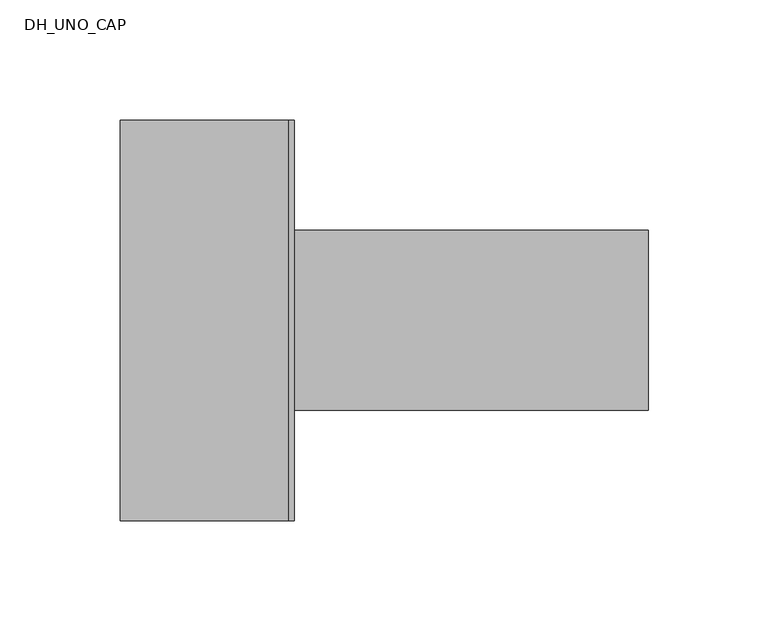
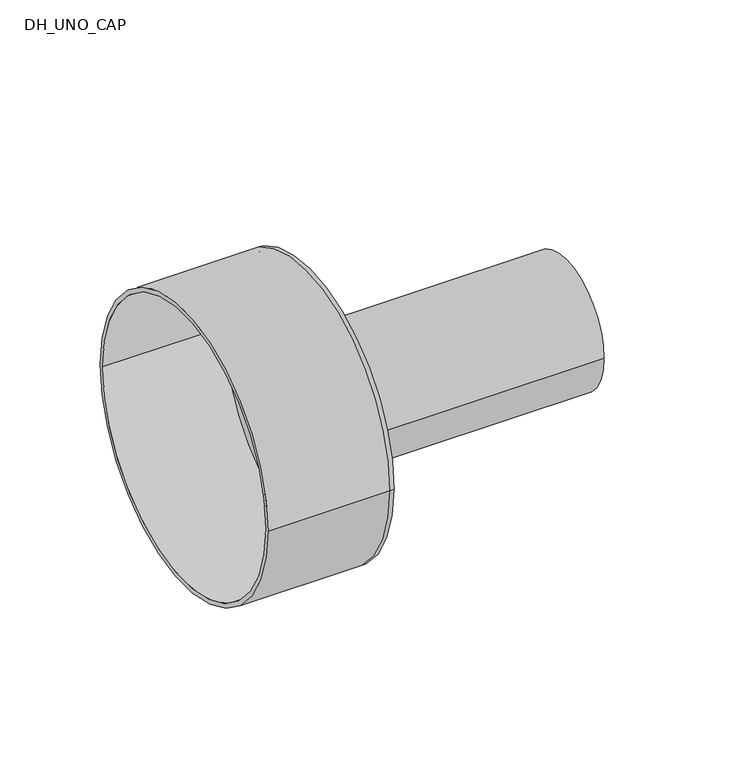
"""IFC4 building model written with IfcOpenShell, lengths in millimetres: pipe fitting geometry, DH_UNO_CAP : RAUTHERMEX UNO + 11 Heating - Solid Cap."""

from ifc_helpers import new_model, si_unit, point, frame, origin, origin_2d, place, context, project, spatial, polyline, circle_curve, trimmed, segment, composite_curve, outline, extrude, source, transform, mapped, element, save
from ifc_brep_helpers import plane_surface, cylinder_surface, revolved_surface, advanced_brep


def dh_uno_cap_075bc3ed(model_context):
    return source(origin(), model_context, "Body", "SolidModel", [
        extrude(outline(composite_curve([segment(trimmed(circle_curve(origin_2d(), 37.5), [point((-37.5, 0.0))], [point((37.5, 0.0))], False, "CARTESIAN"), True, "CONTINUOUS"), segment(trimmed(circle_curve(origin_2d(), 37.5), [point((37.5, 0.0))], [point((-37.5, 0.0))], False, "CARTESIAN"), True, "CONTINUOUS")], self_intersect=False), holes=[composite_curve([segment(trimmed(circle_curve(origin_2d(), 30.7), [point((-30.7, 0.0))], [point((30.7, 0.0))], True, "CARTESIAN"), True, "CONTINUOUS"), segment(trimmed(circle_curve(origin_2d(), 30.7), [point((30.7, 0.0))], [point((-30.7, 0.0))], True, "CARTESIAN"), True, "CONTINUOUS")], self_intersect=False)]), frame((0.0, 0.0, 0.0), z_axis=(1.0, 0.0, 0.0), x_axis=(0.0, 1.0, 0.0)), (0.0, 0.0, 1.0), 150.0),
        advanced_brep(
        [(-70.0, -83.5, 0.0), (-70.0, 83.5, 0.0), (-70.0, -81.0, 0.0), (-70.0, 81.0, 0.0), (0.0, -81.0, 0.0), (0.0, 81.0, 0.0), (0.0, -83.5, 0.0), (0.0, 83.5, 0.0), (0.0, 37.5, 0.0), (0.0, -37.5, 0.0), (2.5, -83.5, 0.0), (2.5, 83.5, 0.0), (2.5, -37.5, 0.0), (2.5, 37.5, 0.0)],
        [
            (0, 1, circle_curve(frame((-70.0, 0.0, 0.0), z_axis=(-1.0, 0.0, 0.0), x_axis=(0.0, 1.0, 0.0)), 83.5)),
            (1, 0, circle_curve(frame((-70.0, 0.0, 0.0), z_axis=(-1.0, 0.0, 0.0), x_axis=(0.0, 1.0, 0.0)), 83.5)),
            (2, 3, circle_curve(frame((-70.0, 0.0, 0.0), z_axis=(1.0, 0.0, 0.0), x_axis=(0.0, 1.0, 0.0)), 81.0)),
            (3, 2, circle_curve(frame((-70.0, 0.0, 0.0), z_axis=(1.0, 0.0, 0.0), x_axis=(0.0, 1.0, 0.0)), 81.0)),
            (2, 4),
            (4, 5, circle_curve(frame((0.0, 0.0, 0.0), z_axis=(1.0, 0.0, 0.0), x_axis=(0.0, 1.0, 0.0)), 81.0)),
            (5, 3),
            (5, 4, circle_curve(frame((0.0, 0.0, 0.0), z_axis=(1.0, 0.0, 0.0), x_axis=(0.0, 1.0, 0.0)), 81.0)),
            (0, 6),
            (6, 7, circle_curve(frame((0.0, 0.0, 0.0), z_axis=(-1.0, 0.0, 0.0), x_axis=(0.0, 1.0, 0.0)), 83.5)),
            (7, 1),
            (7, 6, circle_curve(frame((0.0, 0.0, 0.0), z_axis=(-1.0, 0.0, 0.0), x_axis=(0.0, 1.0, 0.0)), 83.5)),
            (8, 9, circle_curve(frame((0.0, 0.0, 0.0), z_axis=(1.0, 0.0, 0.0), x_axis=(0.0, 1.0, 0.0)), 37.5)),
            (9, 8, circle_curve(frame((0.0, 0.0, 0.0), z_axis=(1.0, 0.0, 0.0), x_axis=(0.0, 1.0, 0.0)), 37.5)),
            (10, 11, circle_curve(frame((2.5, 0.0, 0.0), z_axis=(1.0, 0.0, 0.0), x_axis=(0.0, 1.0, 0.0)), 83.5)),
            (11, 10, circle_curve(frame((2.5, 0.0, 0.0), z_axis=(1.0, 0.0, 0.0), x_axis=(0.0, 1.0, 0.0)), 83.5)),
            (12, 13, circle_curve(frame((2.5, 0.0, 0.0), z_axis=(-1.0, 0.0, 0.0), x_axis=(0.0, 1.0, 0.0)), 37.5)),
            (13, 12, circle_curve(frame((2.5, 0.0, 0.0), z_axis=(-1.0, 0.0, 0.0), x_axis=(0.0, 1.0, 0.0)), 37.5)),
            (11, 7),
            (6, 10),
            (8, 13),
            (12, 9),
        ],
        [
            plane_surface(frame((-70.0, 0.0, 0.0), z_axis=(-1.0, 0.0, 0.0), x_axis=(0.0, 0.0, 1.0))),
            revolved_surface(polyline([(0.0, 81.0, 0.0), (-70.0, 81.0, 0.0)]), (-70.0, 0.0, 0.0), (1.0, 0.0, 0.0)),
            cylinder_surface(frame((-70.0, 0.0, 0.0), z_axis=(-1.0, 0.0, 0.0), x_axis=(0.0, 1.0, 0.0)), 83.5),
            plane_surface(frame((0.0, 0.0, 0.0), z_axis=(-1.0, 0.0, 0.0), x_axis=(0.0, 0.0, 1.0))),
            plane_surface(frame((2.5, 0.0, 0.0), z_axis=(1.0, 0.0, 0.0), x_axis=(0.0, 0.0, 1.0))),
            cylinder_surface(frame((0.0, 0.0, 0.0), z_axis=(-1.0, 0.0, 0.0), x_axis=(0.0, 1.0, 0.0)), 83.5),
            revolved_surface(polyline([(0.0, 37.5, 0.0), (2.5, 37.5, 0.0)]), (0.0, 0.0, 0.0), (-1.0, 0.0, 0.0)),
        ],
        [
            (0, [[1, 2], [3, 4]]),
            (1, [[-3, 5, 6, 7]]),
            (1, [[-4, -7, 8, -5]]),
            (2, [[-1, 9, 10, 11]]),
            (2, [[-2, -11, 12, -9]]),
            (3, [[-6, -8], [13, 14]]),
            (4, [[15, 16], [17, 18]]),
            (5, [[-16, 19, -10, 20]]),
            (5, [[-15, -20, -12, -19]]),
            (6, [[21, -17, 22, -13]]),
            (6, [[-21, -14, -22, -18]]),
        ],
    ),
    ])


if __name__ == "__main__":
    model = new_model("IFC4")
    model_context = context("Model", 3, world=origin())
    ifc_project = project(units=[si_unit("LENGTHUNIT", "METRE", prefix="MILLI")], contexts=[model_context])
    site = spatial("IfcSite", under=ifc_project)
    building = spatial("IfcBuilding", under=site)
    placement = place(None, origin())
    dh_uno_cap_shape = dh_uno_cap_075bc3ed(model_context)
    element("IfcPipeFitting", 1, ObjectType="DH_UNO_CAP : RAUTHERMEX UNO + 11 Heating - Solid Cap", at=placement, inside=building, context=model_context, shape_type="MappedRepresentation", body=[
        mapped(dh_uno_cap_shape, transform((0.0, 0.0, 0.0), x_axis=(1.0, 0.0, 0.0), y_axis=(0.0, 1.0, 0.0), z_axis=(0.0, 0.0, 1.0))),
    ])
    save(model, "model.ifc")
